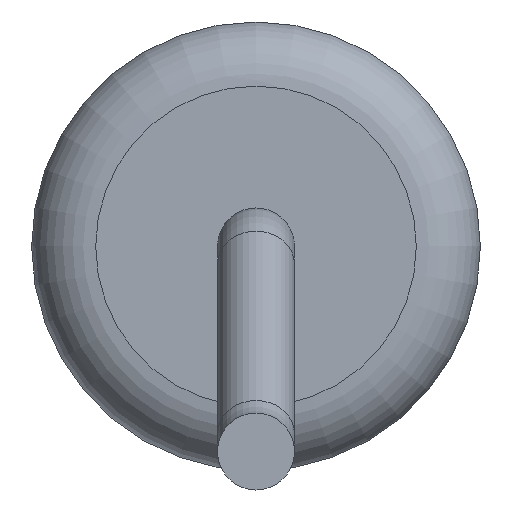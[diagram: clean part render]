
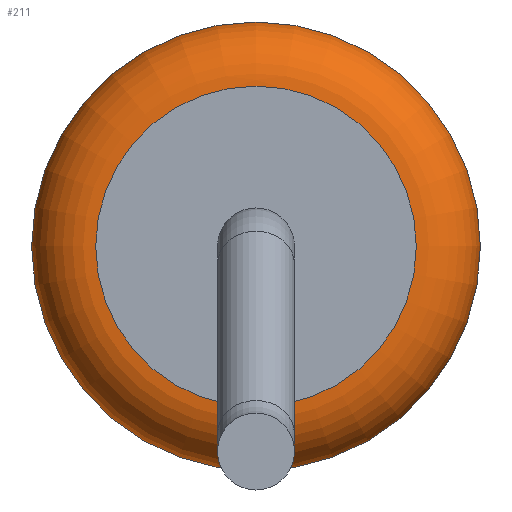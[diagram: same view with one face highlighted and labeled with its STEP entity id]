
A CAD part, left-side view. The second image highlights one B-rep face of the part: STEP entity #211.
In plain terms, the highlighted toroidal (fillet/blend) face has major radius 1.25 mm and minor radius 0.5 mm.
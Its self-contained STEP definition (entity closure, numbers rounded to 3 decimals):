
#211=ADVANCED_FACE('',(#434,#436),#438,.T.);
#434=FACE_OUTER_BOUND('',#435,.T.);
#435=EDGE_LOOP('',(#537));
#436=FACE_OUTER_BOUND('',#437,.T.);
#437=EDGE_LOOP('',(#538));
#438=TOROIDAL_SURFACE('',#439,1.25,0.5);
#439=AXIS2_PLACEMENT_3D('',#440,#441,#442);
#440=CARTESIAN_POINT('',(-3.5,0.,0.));
#441=DIRECTION('',(-1.,0.,0.));
#442=DIRECTION('',(0.,0.,1.));
#537=ORIENTED_EDGE('',*,*,#568,.T.);
#538=ORIENTED_EDGE('',*,*,#569,.F.);
#568=EDGE_CURVE('',#608,#608,#609,.T.);
#569=EDGE_CURVE('',#610,#610,#611,.T.);
#608=VERTEX_POINT('',#704);
#609=CIRCLE('',#705,1.75);
#610=VERTEX_POINT('',#709);
#611=CIRCLE('',#710,1.25);
#704=CARTESIAN_POINT('',(-3.5,0.,1.75));
#705=AXIS2_PLACEMENT_3D('',#706,#707,#708);
#706=CARTESIAN_POINT('',(-3.5,0.,0.));
#707=DIRECTION('',(-1.,0.,0.));
#708=DIRECTION('',(0.,0.,1.));
#709=CARTESIAN_POINT('',(-4.,0.,1.25));
#710=AXIS2_PLACEMENT_3D('',#711,#712,#713);
#711=CARTESIAN_POINT('',(-4.,0.,0.));
#712=DIRECTION('',(-1.,0.,0.));
#713=DIRECTION('',(0.,0.,1.));
